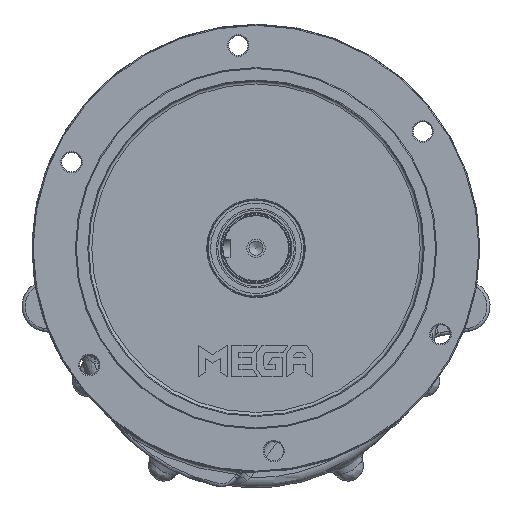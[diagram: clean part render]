
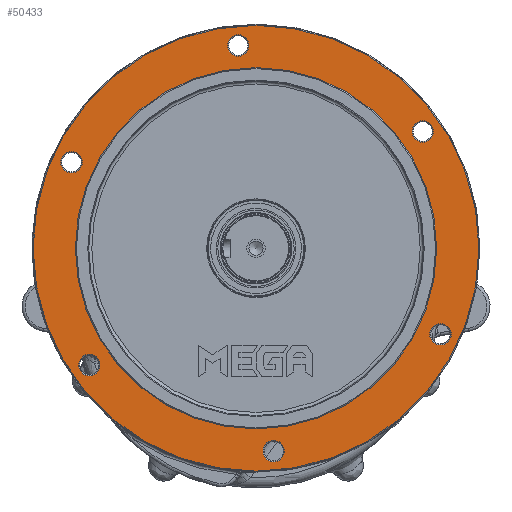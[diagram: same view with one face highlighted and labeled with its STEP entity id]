
A CAD part, front view. The second image highlights one B-rep face of the part: STEP entity #50433.
In plain terms, the highlighted planar face has unit normal (0, -1, 0).
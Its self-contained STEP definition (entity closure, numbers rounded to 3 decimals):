
#929=FACE_BOUND('',#7337,.T.);
#930=FACE_BOUND('',#7338,.T.);
#931=FACE_BOUND('',#7339,.T.);
#932=FACE_BOUND('',#7340,.T.);
#933=FACE_BOUND('',#7341,.T.);
#934=FACE_BOUND('',#7342,.T.);
#935=FACE_BOUND('',#7343,.T.);
#2186=PLANE('',#54976);
#4201=FACE_OUTER_BOUND('',#7336,.T.);
#7336=EDGE_LOOP('',(#39124));
#7337=EDGE_LOOP('',(#39125));
#7338=EDGE_LOOP('',(#39126));
#7339=EDGE_LOOP('',(#39127));
#7340=EDGE_LOOP('',(#39128));
#7341=EDGE_LOOP('',(#39129));
#7342=EDGE_LOOP('',(#39130));
#7343=EDGE_LOOP('',(#39131));
#10446=CIRCLE('',#54797,219.);
#10449=CIRCLE('',#54802,177.5);
#10524=CIRCLE('',#54942,10.5);
#10535=CIRCLE('',#54957,10.5);
#10538=CIRCLE('',#54962,10.5);
#10541=CIRCLE('',#54967,10.5);
#10544=CIRCLE('',#54972,10.5);
#10547=CIRCLE('',#54977,10.5);
#21515=VERTEX_POINT('',#93533);
#21518=VERTEX_POINT('',#93542);
#21656=VERTEX_POINT('',#95392);
#21664=VERTEX_POINT('',#95417);
#21667=VERTEX_POINT('',#95427);
#21670=VERTEX_POINT('',#95437);
#21673=VERTEX_POINT('',#95447);
#21676=VERTEX_POINT('',#95457);
#27462=EDGE_CURVE('',#21515,#21515,#10446,.T.);
#27466=EDGE_CURVE('',#21518,#21518,#10449,.T.);
#27709=EDGE_CURVE('',#21656,#21656,#10524,.T.);
#27722=EDGE_CURVE('',#21664,#21664,#10535,.T.);
#27727=EDGE_CURVE('',#21667,#21667,#10538,.T.);
#27732=EDGE_CURVE('',#21670,#21670,#10541,.T.);
#27737=EDGE_CURVE('',#21673,#21673,#10544,.T.);
#27742=EDGE_CURVE('',#21676,#21676,#10547,.T.);
#39124=ORIENTED_EDGE('',*,*,#27462,.F.);
#39125=ORIENTED_EDGE('',*,*,#27737,.F.);
#39126=ORIENTED_EDGE('',*,*,#27727,.F.);
#39127=ORIENTED_EDGE('',*,*,#27709,.F.);
#39128=ORIENTED_EDGE('',*,*,#27466,.F.);
#39129=ORIENTED_EDGE('',*,*,#27722,.F.);
#39130=ORIENTED_EDGE('',*,*,#27732,.F.);
#39131=ORIENTED_EDGE('',*,*,#27742,.F.);
#50433=ADVANCED_FACE('',(#4201,#929,#930,#931,#932,#933,#934,#935),#2186,
 .T.);
#54797=AXIS2_PLACEMENT_3D('',#93535,#65293,#65294);
#54802=AXIS2_PLACEMENT_3D('',#93544,#65304,#65305);
#54942=AXIS2_PLACEMENT_3D('',#95393,#65675,#65676);
#54957=AXIS2_PLACEMENT_3D('',#95418,#65707,#65708);
#54962=AXIS2_PLACEMENT_3D('',#95428,#65719,#65720);
#54967=AXIS2_PLACEMENT_3D('',#95438,#65731,#65732);
#54972=AXIS2_PLACEMENT_3D('',#95448,#65743,#65744);
#54976=AXIS2_PLACEMENT_3D('',#95456,#65753,#65754);
#54977=AXIS2_PLACEMENT_3D('',#95458,#65755,#65756);
#65293=DIRECTION('center_axis',(0.,1.,0.));
#65294=DIRECTION('ref_axis',(-1.,0.,0.));
#65304=DIRECTION('center_axis',(0.,-1.,0.));
#65305=DIRECTION('ref_axis',(-1.,0.,0.));
#65675=DIRECTION('center_axis',(0.,-1.,0.));
#65676=DIRECTION('ref_axis',(-1.,0.,0.));
#65707=DIRECTION('center_axis',(0.,-1.,0.));
#65708=DIRECTION('ref_axis',(-0.5,0.,0.866));
#65719=DIRECTION('center_axis',(0.,-1.,0.));
#65720=DIRECTION('ref_axis',(0.5,0.,0.866));
#65731=DIRECTION('center_axis',(0.,-1.,0.));
#65732=DIRECTION('ref_axis',(1.,0.,0.));
#65743=DIRECTION('center_axis',(0.,-1.,0.));
#65744=DIRECTION('ref_axis',(0.5,0.,-0.866));
#65753=DIRECTION('center_axis',(0.,-1.,0.));
#65754=DIRECTION('ref_axis',(0.,0.,-1.));
#65755=DIRECTION('center_axis',(0.,-1.,0.));
#65756=DIRECTION('ref_axis',(-0.5,0.,-0.866));
#93533=CARTESIAN_POINT('',(219.228,-228.728,55.25));
#93535=CARTESIAN_POINT('Origin',(0.228,-228.728,55.25));
#93542=CARTESIAN_POINT('',(177.728,-228.728,55.25));
#93544=CARTESIAN_POINT('Origin',(0.228,-228.728,55.25));
#95392=CARTESIAN_POINT('',(-6.703,-228.728,254.489));
#95393=CARTESIAN_POINT('Origin',(-17.203,-228.728,254.489));
#95417=CARTESIAN_POINT('',(169.309,-228.728,160.872));
#95418=CARTESIAN_POINT('Origin',(164.059,-228.728,169.965));
#95427=CARTESIAN_POINT('',(176.24,-228.728,-38.367));
#95428=CARTESIAN_POINT('Origin',(181.49,-228.728,-29.274));
#95437=CARTESIAN_POINT('',(7.16,-228.728,-143.989));
#95438=CARTESIAN_POINT('Origin',(17.66,-228.728,-143.989));
#95447=CARTESIAN_POINT('',(-168.852,-228.728,-50.372));
#95448=CARTESIAN_POINT('Origin',(-163.602,-228.728,-59.465));
#95456=CARTESIAN_POINT('Origin',(0.228,-228.728,55.25));
#95457=CARTESIAN_POINT('',(-175.783,-228.728,148.867));
#95458=CARTESIAN_POINT('Origin',(-181.033,-228.728,139.774));
